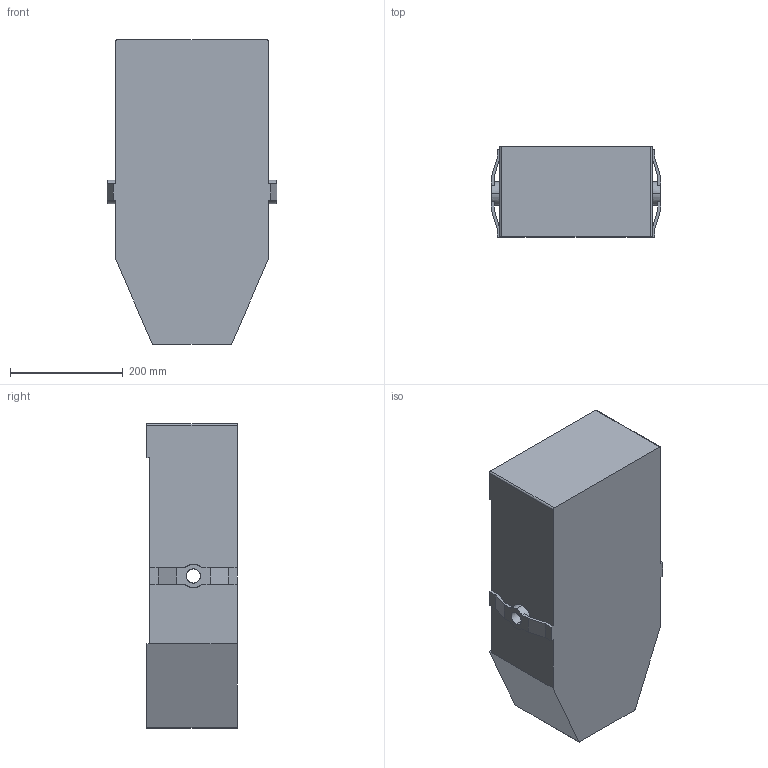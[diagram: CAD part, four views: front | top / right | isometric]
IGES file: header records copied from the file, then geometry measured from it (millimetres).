
Start section: SolidWorks IGES file using analytic representation for surfaces
Global section: file name: C:\Users\kaziw\OneDrive\Desktop\FEM PROJECT\CAD FILES\CHASSIS\Chassis V1.IGS; native system: SolidWorks 2023; preprocessor: SolidWorks 2023; author: kaziw; date: 241113.223726; units: millimetre
Bounding box: 300 x 160 x 540 mm (x, y, z)
Surface area: 845055.9 mm2 (no closed solid volume)
Topology: 0 solids, 0 shells, 75 faces, 940 edges, 940 vertices
Faces by surface type: bspline 53, revolution 22
